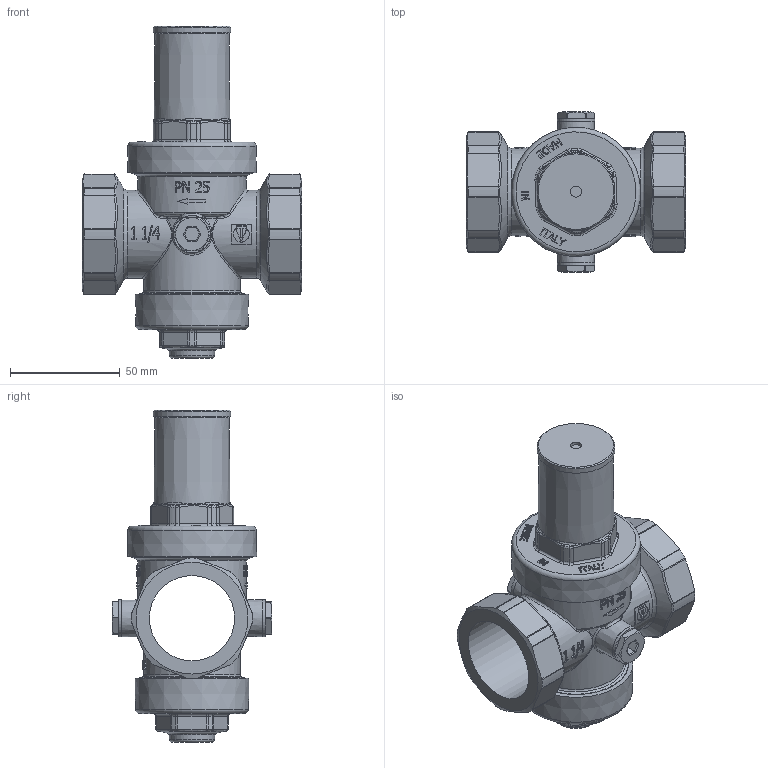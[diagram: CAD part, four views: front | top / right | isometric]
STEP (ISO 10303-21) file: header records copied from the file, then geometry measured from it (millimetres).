
FILE_DESCRIPTION(/* description */ (''),/* implementation_level */ '2;1');
FILE_NAME(/* name */ 'F:\Артём\00000\Работа удаленка\VALTEC 3D 2021-25\VT.086.NH.07.stp',/* time_stamp */ '2021-10-04T10:28:47+03:00',/* author */ ('almis'),/* organization */ (''),/* preprocessor_version */ 'ST-DEVELOPER v18',/* originating_system */ 'Autodesk Inventor 2020',/* authorisation */ '');
FILE_SCHEMA (('AUTOMOTIVE_DESIGN { 1 0 10303 214 3 1 1 }'));
Products named in the file (1): VT.086.NH.07
Bounding box: 100 x 73 x 151.5 mm (x, y, z)
Volume: 267834.1 mm3; surface area: 66632.1 mm2
Topology: 6 solids, 6 shells, 1050 faces, 2668 edges, 1685 vertices
Faces by surface type: plane 431, bspline 208, cylinder 198, torus 104, cone 69, sphere 40
Full cylindrical faces by diameter (mm): 5 x1, 11 x4, 13.157 x2, 17.1 x2, 35.5 x1, 38.9 x1, 40 x2, 44 x1, 45 x1, 48 x1, 49.5 x1, 52.5 x1, 55 x1
Entity records: 62040 total; most frequent: CARTESIAN_POINT 37335, ORIENTED_EDGE 5336, DIRECTION 4416, EDGE_CURVE 2668, VERTEX_POINT 1685, AXIS2_PLACEMENT_3D 1658, EDGE_LOOP 1111, LINE 1100
